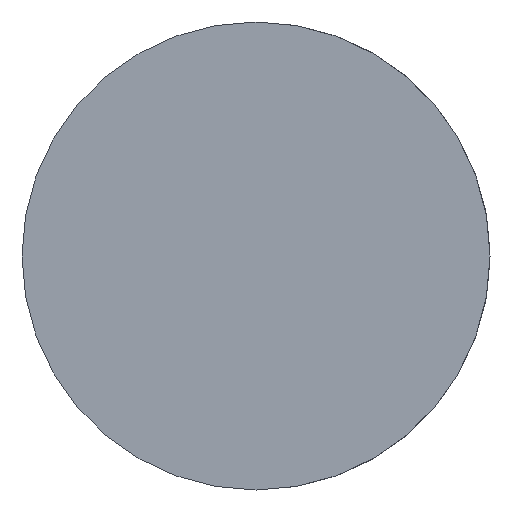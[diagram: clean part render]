
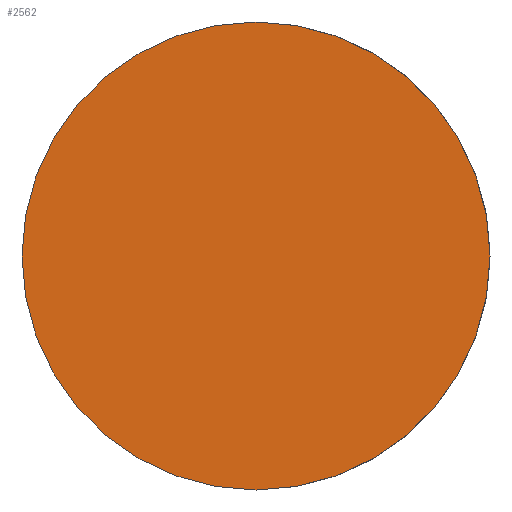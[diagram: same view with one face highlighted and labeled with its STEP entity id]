
A CAD part, front view. The second image highlights one B-rep face of the part: STEP entity #2562.
In plain terms, the highlighted planar face has unit normal (0, -1, 0).
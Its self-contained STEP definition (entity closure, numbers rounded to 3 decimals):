
#33 = PLANE ( 'NONE',  #3060 ) ;
#93 = CARTESIAN_POINT ( 'NONE',  ( 0., 0., 0. ) ) ;
#129 = VERTEX_POINT ( 'NONE', #1577 ) ;
#273 = DIRECTION ( 'NONE',  ( 0., 0., -1. ) ) ;
#337 = CARTESIAN_POINT ( 'NONE',  ( 0., 0., 0. ) ) ;
#419 = DIRECTION ( 'NONE',  ( 0., 0., -1. ) ) ;
#655 = CARTESIAN_POINT ( 'NONE',  ( 0., 0., 0. ) ) ;
#787 = FACE_OUTER_BOUND ( 'NONE', #1483, .T. ) ;
#809 = CIRCLE ( 'NONE', #1173, 85. ) ;
#911 = CARTESIAN_POINT ( 'NONE',  ( 0., 0., -85. ) ) ;
#1091 = EDGE_CURVE ( 'NONE', #129, #1784, #1652, .T. ) ;
#1173 = AXIS2_PLACEMENT_3D ( 'NONE', #93, #1531, #2035 ) ;
#1309 = ORIENTED_EDGE ( 'NONE', *, *, #1091, .T. ) ;
#1483 = EDGE_LOOP ( 'NONE', ( #1309, #2417 ) ) ;
#1531 = DIRECTION ( 'NONE',  ( 0., -1., 0. ) ) ;
#1577 = CARTESIAN_POINT ( 'NONE',  ( 0., 0., 85. ) ) ;
#1652 = CIRCLE ( 'NONE', #2789, 85. ) ;
#1685 = EDGE_CURVE ( 'NONE', #1784, #129, #809, .T. ) ;
#1784 = VERTEX_POINT ( 'NONE', #911 ) ;
#2035 = DIRECTION ( 'NONE',  ( 0., 0., -1. ) ) ;
#2417 = ORIENTED_EDGE ( 'NONE', *, *, #1685, .T. ) ;
#2527 = DIRECTION ( 'NONE',  ( 0., -1., 0. ) ) ;
#2562 = ADVANCED_FACE ( 'NONE', ( #787 ), #33, .T. ) ;
#2639 = DIRECTION ( 'NONE',  ( 0., -1., 0. ) ) ;
#2789 = AXIS2_PLACEMENT_3D ( 'NONE', #655, #2639, #419 ) ;
#3060 = AXIS2_PLACEMENT_3D ( 'NONE', #337, #2527, #273 ) ;
